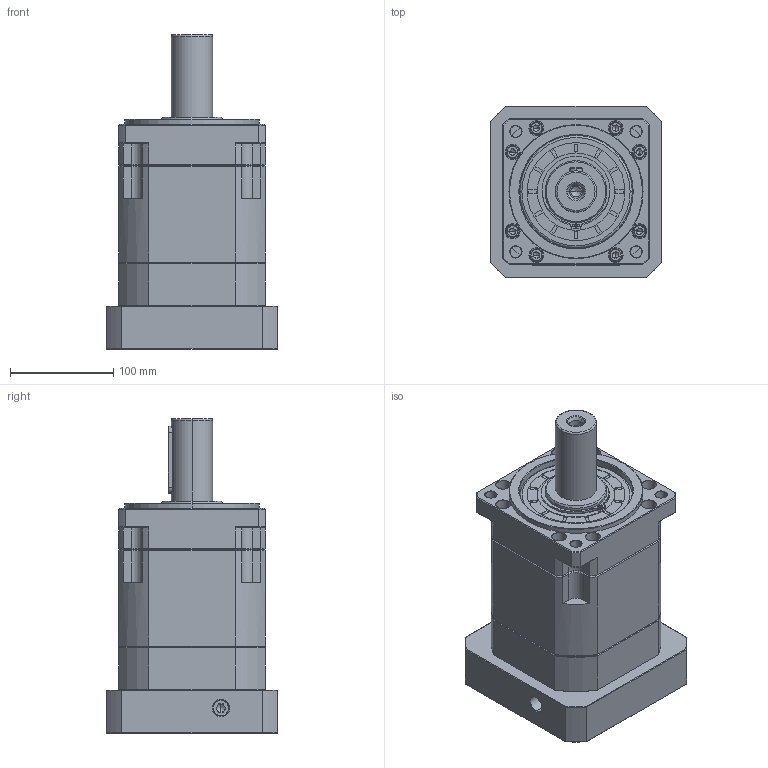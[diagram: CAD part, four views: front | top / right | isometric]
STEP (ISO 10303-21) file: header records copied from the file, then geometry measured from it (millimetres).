
FILE_DESCRIPTION (( 'STEP AP214' ), '1' );
FILE_NAME ('ZB142A-D40-L2-28-130-165-M10.step', '2023-03-17T10:46:43', ( '' ), ( '' ), 'SwSTEP 2.0', 'SolidWorks 2016', '' );
FILE_SCHEMA (( 'AUTOMOTIVE_DESIGN' ));
Length unit declared in the file: millimetre
Products named in the file (1): ZB142A-D40-L2-28-130-165-M10
Bounding box: 166 x 166 x 305.2 mm (x, y, z)
Volume: 4192659.8 mm3; surface area: 317155.2 mm2
Topology: 6 solids, 6 shells, 2040 faces, 5390 edges, 3452 vertices
Faces by surface type: plane 922, cylinder 432, cone 351, bspline 313, torus 22
Entity records: 113428 total; most frequent: CARTESIAN_POINT 43079, ORIENTED_EDGE 10720, DIRECTION 8812, EDGE_CURVE 5360, VERTEX_POINT 3452, VECTOR 3280, LINE 3280, AXIS2_PLACEMENT_3D 2766
